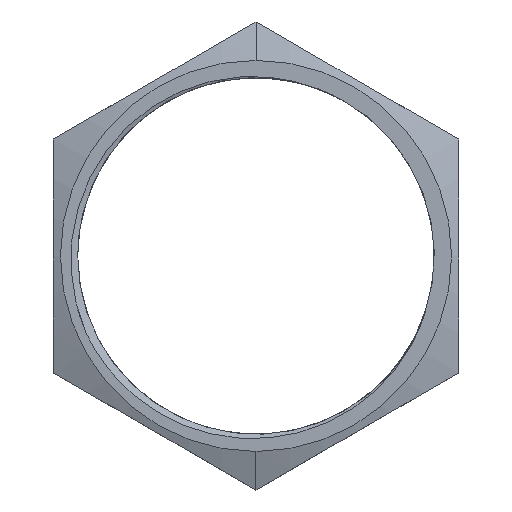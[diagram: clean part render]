
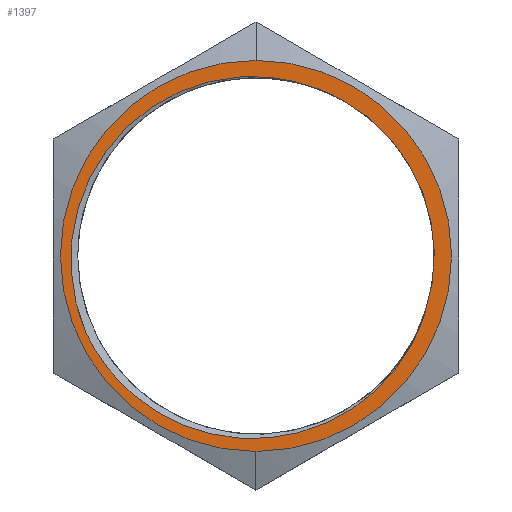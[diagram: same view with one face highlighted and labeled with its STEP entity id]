
A CAD part, top view. The second image highlights one B-rep face of the part: STEP entity #1397.
In plain terms, the highlighted planar face has unit normal (0, 0, 1).
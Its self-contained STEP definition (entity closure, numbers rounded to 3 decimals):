
#251=CARTESIAN_POINT('',(0.,0.,4.));
#252=DIRECTION('',(0.,0.,-1.));
#253=DIRECTION('',(0.,1.,0.));
#254=AXIS2_PLACEMENT_3D('',#251,#252,#253);
#256=CARTESIAN_POINT('',(0.,0.,4.));
#257=DIRECTION('',(0.,0.,-1.));
#258=DIRECTION('',(0.,-1.,0.));
#259=AXIS2_PLACEMENT_3D('',#256,#257,#258);
#261=CARTESIAN_POINT('',(-10.467,-4.793,4.));
#262=CARTESIAN_POINT('',(-10.68,-4.303,4.));
#263=CARTESIAN_POINT('',(-11.034,-3.307,4.));
#264=CARTESIAN_POINT('',(-11.354,-1.752,4.));
#265=CARTESIAN_POINT('',(-11.457,-0.171,4.));
#266=CARTESIAN_POINT('',(-11.341,1.409,4.));
#267=CARTESIAN_POINT('',(-11.01,2.948,4.));
#268=CARTESIAN_POINT('',(-10.468,4.432,4.));
#269=CARTESIAN_POINT('',(-9.73,5.819,4.));
#270=CARTESIAN_POINT('',(-8.81,7.087,4.));
#271=CARTESIAN_POINT('',(-7.72,8.219,4.));
#272=CARTESIAN_POINT('',(-6.496,9.18,4.));
#273=CARTESIAN_POINT('',(-5.143,9.967,4.));
#274=CARTESIAN_POINT('',(-3.704,10.554,4.));
#275=CARTESIAN_POINT('',(-2.201,10.935,4.));
#276=CARTESIAN_POINT('',(-0.654,11.104,4.));
#277=CARTESIAN_POINT('',(0.887,11.058,4.));
#278=CARTESIAN_POINT('',(2.394,10.797,4.));
#279=CARTESIAN_POINT('',(3.276,10.52,4.));
#280=CARTESIAN_POINT('',(3.697,10.36,4.));
#282=CARTESIAN_POINT('',(9.564,-5.522,4.));
#283=CARTESIAN_POINT('',(9.404,-5.812,4.));
#284=CARTESIAN_POINT('',(9.057,-6.378,4.));
#285=CARTESIAN_POINT('',(8.458,-7.184,4.));
#286=CARTESIAN_POINT('',(7.788,-7.932,4.));
#287=CARTESIAN_POINT('',(7.062,-8.609,4.));
#288=CARTESIAN_POINT('',(6.281,-9.219,4.));
#289=CARTESIAN_POINT('',(5.402,-9.785,4.));
#290=CARTESIAN_POINT('',(4.391,-10.307,4.));
#291=CARTESIAN_POINT('',(3.186,-10.773,4.));
#292=CARTESIAN_POINT('',(1.788,-11.124,4.));
#293=CARTESIAN_POINT('',(0.28,-11.294,4.));
#294=CARTESIAN_POINT('',(-1.275,-11.256,4.));
#295=CARTESIAN_POINT('',(-2.826,-11.001,4.));
#296=CARTESIAN_POINT('',(-4.323,-10.535,4.));
#297=CARTESIAN_POINT('',(-5.718,-9.878,4.));
#298=CARTESIAN_POINT('',(-6.937,-9.091,4.));
#299=CARTESIAN_POINT('',(-7.933,-8.261,4.));
#300=CARTESIAN_POINT('',(-8.741,-7.429,4.));
#301=CARTESIAN_POINT('',(-9.413,-6.588,4.));
#302=CARTESIAN_POINT('',(-9.986,-5.721,4.));
#303=CARTESIAN_POINT('',(-10.316,-5.108,4.));
#304=CARTESIAN_POINT('',(-10.467,-4.793,4.));
#306=CARTESIAN_POINT('',(10.44,-3.464,4.));
#307=CARTESIAN_POINT('',(10.365,-3.707,4.));
#308=CARTESIAN_POINT('',(10.199,-4.183,4.));
#309=CARTESIAN_POINT('',(9.902,-4.878,4.));
#310=CARTESIAN_POINT('',(9.68,-5.311,4.));
#311=CARTESIAN_POINT('',(9.564,-5.522,4.));
#583=CARTESIAN_POINT('',(0.,0.,4.));
#584=DIRECTION('',(0.,0.,-1.));
#585=DIRECTION('',(0.336,0.942,0.));
#586=AXIS2_PLACEMENT_3D('',#583,#584,#585);
#1163=VERTEX_POINT('',#261);
#1164=VERTEX_POINT('',#280);
#1165=VERTEX_POINT('',#282);
#1166=VERTEX_POINT('',#306);
#1200=CARTESIAN_POINT('',(0.,-12.065,4.));
#1201=VERTEX_POINT('',#1200);
#1202=CARTESIAN_POINT('',(0.,12.065,4.));
#1203=VERTEX_POINT('',#1202);
#1378=CARTESIAN_POINT('',(0.,0.,4.));
#1379=DIRECTION('',(0.,0.,1.));
#1380=DIRECTION('',(1.,0.,0.));
#1381=AXIS2_PLACEMENT_3D('',#1378,#1379,#1380);
#1382=PLANE('',#1381);
#1383=ORIENTED_EDGE('',*,*,#1353,.T.);
#1384=ORIENTED_EDGE('',*,*,#1373,.T.);
#1385=EDGE_LOOP('',(#1383,#1384));
#1386=FACE_OUTER_BOUND('',#1385,.F.);
#1388=ORIENTED_EDGE('',*,*,#1387,.F.);
#1390=ORIENTED_EDGE('',*,*,#1389,.F.);
#1392=ORIENTED_EDGE('',*,*,#1391,.F.);
#1394=ORIENTED_EDGE('',*,*,#1393,.F.);
#1395=EDGE_LOOP('',(#1388,#1390,#1392,#1394));
#1396=FACE_BOUND('',#1395,.F.);
#1397=ADVANCED_FACE('',(#1386,#1396),#1382,.T.);
#255=CIRCLE('',#254,12.065);
#260=CIRCLE('',#259,12.065);
#281=B_SPLINE_CURVE_WITH_KNOTS('',3,(#261,#262,#263,#264,#265,#266,#267,#268,
#269,#270,#271,#272,#273,#274,#275,#276,#277,#278,#279,#280),.UNSPECIFIED.,.F.,
.F.,(4,1,1,1,1,1,1,1,1,1,1,1,1,1,1,1,1,4),(0.,0.059,
0.118,0.176,0.235,0.294,
0.353,0.412,0.471,0.529,
0.588,0.647,0.706,0.765,
0.824,0.882,0.941,1.),.UNSPECIFIED.);
#305=B_SPLINE_CURVE_WITH_KNOTS('',3,(#282,#283,#284,#285,#286,#287,#288,#289,
#290,#291,#292,#293,#294,#295,#296,#297,#298,#299,#300,#301,#302,#303,#304),
.UNSPECIFIED.,.F.,.F.,(4,1,1,1,1,1,1,1,1,1,1,1,1,1,1,1,1,1,1,1,4),(0.,0.05,
0.1,0.15,0.2,0.25,0.3,0.35,0.4,0.45,0.5,0.55,0.6,0.65,
0.7,0.75,0.8,0.85,0.9,0.95,1.),.UNSPECIFIED.);
#312=B_SPLINE_CURVE_WITH_KNOTS('',3,(#306,#307,#308,#309,#310,#311),
.UNSPECIFIED.,.F.,.F.,(4,1,1,4),(0.,0.333,0.667,1.),
.UNSPECIFIED.);
#587=CIRCLE('',#586,11.);
#1353=EDGE_CURVE('',#1203,#1201,#255,.T.);
#1373=EDGE_CURVE('',#1201,#1203,#260,.T.);
#1387=EDGE_CURVE('',#1163,#1164,#281,.T.);
#1389=EDGE_CURVE('',#1165,#1163,#305,.T.);
#1391=EDGE_CURVE('',#1166,#1165,#312,.T.);
#1393=EDGE_CURVE('',#1164,#1166,#587,.T.);
